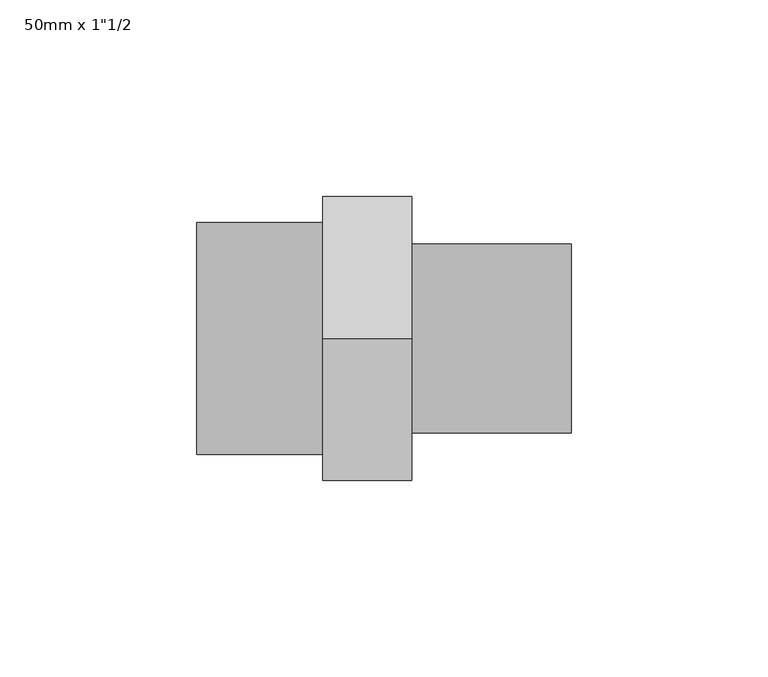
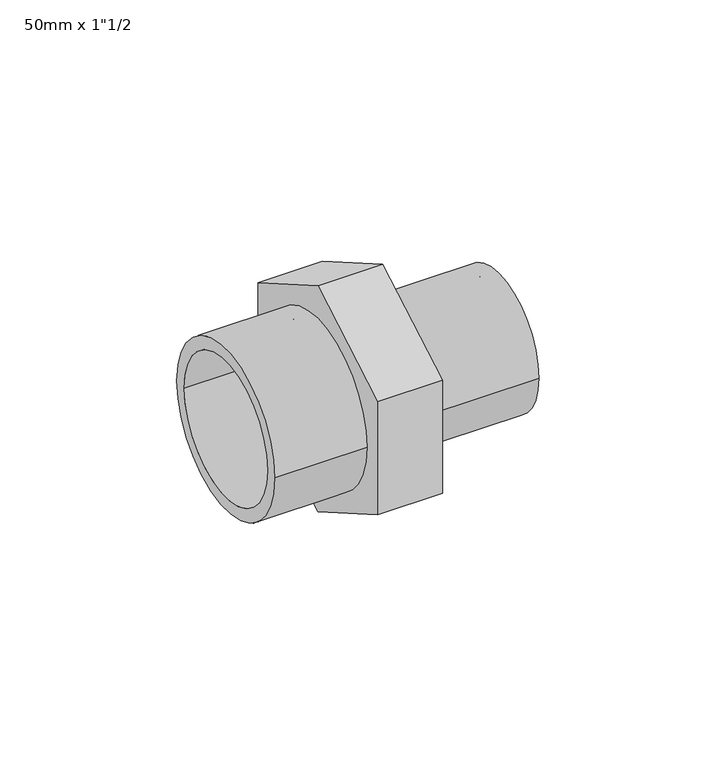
"""IFC4 building model written with IfcOpenShell, lengths in millimetres: pipe fitting geometry."""

from ifc_helpers import new_model, si_unit, point, frame, origin, origin_2d, place, context, project, spatial, polyline, circle_curve, trimmed, segment, composite_curve, outline, extrude, source, transform, mapped, element, save
from ifc_brep_helpers import plane_surface, cylinder_surface, revolved_surface, advanced_brep


def pipe_fitting_ee8ad272(model_context):
    return source(origin(), model_context, "Body", "SolidModel", [
        extrude(outline(composite_curve([segment(trimmed(circle_curve(origin_2d(), 29.5), [point((-29.5, 0.0))], [point((29.5, 0.0))], False, "CARTESIAN"), True, "CONTINUOUS"), segment(trimmed(circle_curve(origin_2d(), 29.5), [point((29.5, 0.0))], [point((-29.5, 0.0))], False, "CARTESIAN"), True, "CONTINUOUS")], self_intersect=False), holes=[composite_curve([segment(trimmed(circle_curve(origin_2d(), 25.0), [point((-25.0, 0.0))], [point((25.0, 0.0))], True, "CARTESIAN"), True, "CONTINUOUS"), segment(trimmed(circle_curve(origin_2d(), 25.0), [point((25.0, 0.0))], [point((-25.0, 0.0))], True, "CARTESIAN"), True, "CONTINUOUS")], self_intersect=False)]), frame((-16.0, 0.0, 0.0), z_axis=(1.0, 0.0, 0.0), x_axis=(0.0, 1.0, 0.0)), (0.0, 0.0, 1.0), 32.0),
        advanced_brep(
        [(79.0, -24.0, 0.0), (79.0, 24.0, 0.0), (79.0, 19.5, 0.0), (79.0, -19.5, 0.0), (38.5, 24.0, 0.0), (38.5, -24.0, 0.0), (16.0, 0.0, 41.5692194), (16.0, 36.0, 20.7846097), (16.0, 36.0, -20.7846097), (16.0, 0.0, -41.5692194), (16.0, -36.0, -20.7846097), (16.0, -36.0, 20.7846097), (16.0, -19.5, 0.0), (16.0, 19.5, 0.0), (38.5, 0.0, 41.5692194), (38.5, -36.0, 20.7846097), (38.5, -36.0, -20.7846097), (38.5, 0.0, -41.5692194), (38.5, 36.0, -20.7846097), (38.5, 36.0, 20.7846097)],
        [
            (0, 1, circle_curve(frame((79.0, 0.0, 0.0), z_axis=(1.0, 0.0, 0.0), x_axis=(0.0, 1.0, 0.0)), 24.0)),
            (1, 0, circle_curve(frame((79.0, 0.0, 0.0), z_axis=(1.0, 0.0, 0.0), x_axis=(0.0, 1.0, 0.0)), 24.0)),
            (2, 3, circle_curve(frame((79.0, 0.0, 0.0), z_axis=(-1.0, 0.0, 0.0), x_axis=(0.0, -1.0, 0.0)), 19.5)),
            (3, 2, circle_curve(frame((79.0, 0.0, 0.0), z_axis=(-1.0, 0.0, 0.0), x_axis=(0.0, -1.0, 0.0)), 19.5)),
            (1, 4),
            (4, 5, circle_curve(frame((38.5, 0.0, 0.0), z_axis=(1.0, 0.0, 0.0), x_axis=(0.0, 1.0, 0.0)), 24.0)),
            (5, 0),
            (5, 4, circle_curve(frame((38.5, 0.0, 0.0), z_axis=(1.0, 0.0, 0.0), x_axis=(0.0, 1.0, 0.0)), 24.0)),
            (6, 7),
            (7, 8),
            (8, 9),
            (9, 10),
            (10, 11),
            (11, 6),
            (12, 13, circle_curve(frame((16.0, 0.0, 0.0), z_axis=(1.0, 0.0, 0.0), x_axis=(0.0, -1.0, 0.0)), 19.5)),
            (13, 12, circle_curve(frame((16.0, 0.0, 0.0), z_axis=(1.0, 0.0, 0.0), x_axis=(0.0, -1.0, 0.0)), 19.5)),
            (14, 15),
            (15, 16),
            (16, 17),
            (17, 18),
            (18, 19),
            (19, 14),
            (6, 14),
            (19, 7),
            (18, 8),
            (17, 9),
            (16, 10),
            (15, 11),
            (12, 3),
            (2, 13),
        ],
        [
            plane_surface(frame((79.0, 0.0, 0.0), z_axis=(1.0, 0.0, 0.0), x_axis=(0.0, 0.0, 1.0))),
            cylinder_surface(frame((38.5, 0.0, 0.0), z_axis=(-1.0, 0.0, 0.0), x_axis=(0.0, 1.0, 0.0)), 24.0),
            plane_surface(frame((16.0, 0.0, 0.0), z_axis=(-1.0, 0.0, 0.0), x_axis=(0.0, 0.0, 1.0))),
            plane_surface(frame((38.5, 0.0, 0.0), z_axis=(1.0, 0.0, 0.0), x_axis=(0.0, 0.0, 1.0))),
            plane_surface(frame((16.0, 0.0, 41.5692194), z_axis=(0.0, 0.49999999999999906, 0.8660254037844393), x_axis=(1.0, 0.0, 0.0))),
            plane_surface(frame((16.0, 36.0, 20.7846097), z_axis=(0.0, 1.0, 0.0), x_axis=(1.0, 0.0, 0.0))),
            plane_surface(frame((16.0, 36.0, -20.7846097), z_axis=(0.0, 0.4999999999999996, -0.8660254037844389), x_axis=(1.0, 0.0, 0.0))),
            plane_surface(frame((16.0, 0.0, -41.5692194), z_axis=(0.0, -0.4999999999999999, -0.8660254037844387), x_axis=(1.0, 0.0, 0.0))),
            plane_surface(frame((16.0, -36.0, -20.7846097), z_axis=(0.0, -1.0, 0.0), x_axis=(1.0, 0.0, 0.0))),
            plane_surface(frame((16.0, -36.0, 20.7846097), z_axis=(0.0, -0.5000000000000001, 0.8660254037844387), x_axis=(1.0, 0.0, 0.0))),
            revolved_surface(polyline([(16.0, -19.5, 0.0), (79.0, -19.5, 0.0)]), (79.0, 0.0, 0.0), (-1.0, 0.0, 0.0)),
        ],
        [
            (0, [[1, 2], [3, 4]]),
            (1, [[-2, 5, 6, 7]]),
            (1, [[-1, -7, 8, -5]]),
            (2, [[9, 10, 11, 12, 13, 14], [15, 16]]),
            (3, [[17, 18, 19, 20, 21, 22], [-6, -8]]),
            (4, [[-9, 23, -22, 24]]),
            (5, [[-10, -24, -21, 25]]),
            (6, [[-11, -25, -20, 26]]),
            (7, [[-12, -26, -19, 27]]),
            (8, [[-13, -27, -18, 28]]),
            (9, [[-14, -28, -17, -23]]),
            (10, [[29, -3, 30, -15]]),
            (10, [[-29, -16, -30, -4]]),
        ],
    ),
    ])


if __name__ == "__main__":
    model = new_model("IFC4")
    model_context = context("Model", 3, world=origin())
    ifc_project = project(units=[si_unit("LENGTHUNIT", "METRE", prefix="MILLI")], contexts=[model_context])
    site = spatial("IfcSite", under=ifc_project)
    building = spatial("IfcBuilding", under=site)
    placement = place(None, origin())
    pipe_fitting_shape = pipe_fitting_ee8ad272(model_context)
    element("IfcPipeFitting", 1, ObjectType="PipeFitting_HTA_CPVC_Male3PieceUnions_(CPVC-Brass) : 50mm x 1\"1/2", at=placement, inside=building, context=model_context, shape_type="MappedRepresentation", body=[
        mapped(pipe_fitting_shape, transform((0.0, 0.0, 0.0), x_axis=(1.0, 0.0, 0.0), y_axis=(0.0, 1.0, 0.0), z_axis=(0.0, 0.0, 1.0))),
    ])
    save(model, "model.ifc")
